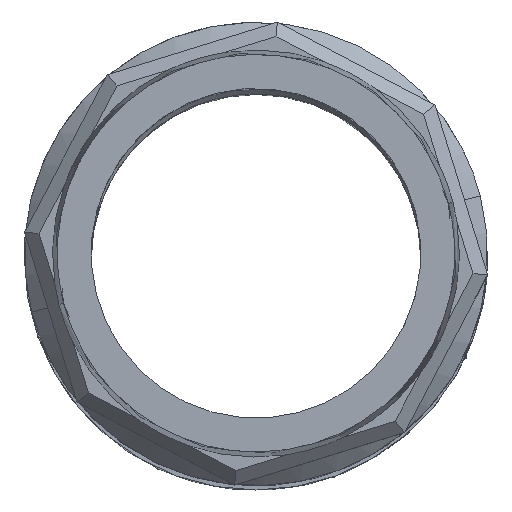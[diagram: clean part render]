
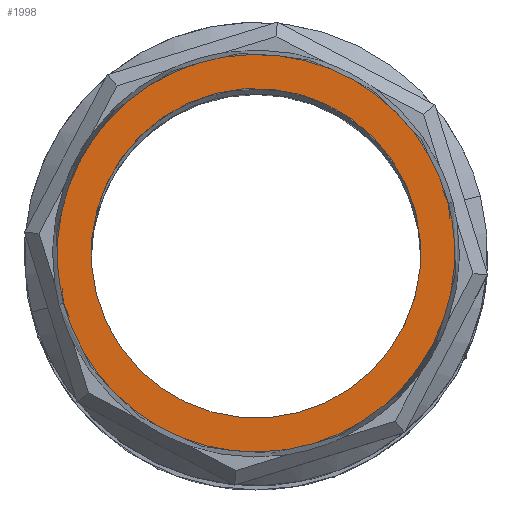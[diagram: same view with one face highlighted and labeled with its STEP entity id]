
A CAD part, top view. The second image highlights one B-rep face of the part: STEP entity #1998.
In plain terms, the highlighted planar face has unit normal (0, 0, 1).
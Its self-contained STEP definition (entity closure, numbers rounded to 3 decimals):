
#1 = EDGE_LOOP ( 'NONE', ( #2706, #2707 ) ) ;
#6 = EDGE_LOOP ( 'NONE', ( #2708, #2709 ) ) ;
#406 = CARTESIAN_POINT ( 'NONE',  ( 20.156, 13.04, 261.443 ) ) ;
#413 = CARTESIAN_POINT ( 'NONE',  ( 20.443, 12.124, 261.443 ) ) ;
#419 = CARTESIAN_POINT ( 'NONE',  ( 20.684, 11.195, 261.443 ) ) ;
#421 = CARTESIAN_POINT ( 'NONE',  ( 19.496, 14.839, 261.443 ) ) ;
#422 = CARTESIAN_POINT ( 'NONE',  ( 19.12, 15.724, 261.443 ) ) ;
#423 = CARTESIAN_POINT ( 'NONE',  ( 17.87, 18.312, 261.443 ) ) ;
#424 = CARTESIAN_POINT ( 'NONE',  ( 16.864, 19.959, 261.443 ) ) ;
#425 = CARTESIAN_POINT ( 'NONE',  ( 14.555, 23.018, 261.443 ) ) ;
#426 = CARTESIAN_POINT ( 'NONE',  ( 13.248, 24.437, 261.443 ) ) ;
#427 = CARTESIAN_POINT ( 'NONE',  ( 10.386, 26.987, 261.443 ) ) ;
#428 = CARTESIAN_POINT ( 'NONE',  ( 8.827, 28.123, 261.443 ) ) ;
#429 = CARTESIAN_POINT ( 'NONE',  ( 5.523, 30.067, 261.443 ) ) ;
#430 = CARTESIAN_POINT ( 'NONE',  ( 3.772, 30.877, 261.443 ) ) ;
#431 = CARTESIAN_POINT ( 'NONE',  ( 0.153, 32.138, 261.443 ) ) ;
#432 = CARTESIAN_POINT ( 'NONE',  ( -1.723, 32.591, 261.443 ) ) ;
#433 = CARTESIAN_POINT ( 'NONE',  ( -5.519, 33.122, 261.443 ) ) ;
#434 = CARTESIAN_POINT ( 'NONE',  ( -7.446, 33.2, 261.443 ) ) ;
#435 = CARTESIAN_POINT ( 'NONE',  ( -11.273, 32.98, 261.443 ) ) ;
#436 = CARTESIAN_POINT ( 'NONE',  ( -13.179, 32.681, 261.443 ) ) ;
#437 = CARTESIAN_POINT ( 'NONE',  ( -16.889, 31.719, 261.443 ) ) ;
#438 = CARTESIAN_POINT ( 'NONE',  ( -18.7, 31.054, 261.443 ) ) ;
#439 = CARTESIAN_POINT ( 'NONE',  ( -22.152, 29.386, 261.443 ) ) ;
#440 = CARTESIAN_POINT ( 'NONE',  ( -23.798, 28.381, 261.443 ) ) ;
#441 = CARTESIAN_POINT ( 'NONE',  ( -26.858, 26.072, 261.443 ) ) ;
#442 = CARTESIAN_POINT ( 'NONE',  ( -28.276, 24.764, 261.443 ) ) ;
#443 = CARTESIAN_POINT ( 'NONE',  ( -30.826, 21.903, 261.443 ) ) ;
#444 = CARTESIAN_POINT ( 'NONE',  ( -31.963, 20.344, 261.443 ) ) ;
#445 = CARTESIAN_POINT ( 'NONE',  ( -33.906, 17.04, 261.443 ) ) ;
#446 = CARTESIAN_POINT ( 'NONE',  ( -34.716, 15.289, 261.443 ) ) ;
#447 = CARTESIAN_POINT ( 'NONE',  ( -35.977, 11.669, 261.443 ) ) ;
#448 = CARTESIAN_POINT ( 'NONE',  ( -36.43, 9.794, 261.443 ) ) ;
#449 = CARTESIAN_POINT ( 'NONE',  ( -36.961, 5.998, 261.443 ) ) ;
#450 = CARTESIAN_POINT ( 'NONE',  ( -37.04, 4.07, 261.443 ) ) ;
#451 = CARTESIAN_POINT ( 'NONE',  ( -36.82, 0.243, 261.443 ) ) ;
#452 = CARTESIAN_POINT ( 'NONE',  ( -36.521, -1.662, 261.443 ) ) ;
#453 = CARTESIAN_POINT ( 'NONE',  ( -36.039, -3.518, 261.443 ) ) ;
#570 = B_SPLINE_CURVE_WITH_KNOTS ( 'NONE', 3,
 ( #1933, #1932, #1939, #1940, #1941, #1942, #1943, #1944, #1945, #1946, #1947, #1948, #1949, #1950, #1951, #1952, #1953, #1954, #1955, #1956, #1957, #1958, #1959, #1960, #1961, #1962, #1963, #1964, #1965, #1966, #1967, #1968, #1969, #1970 ),
 .UNSPECIFIED., .F., .F.,
 ( 4, 2, 2, 2, 2, 2, 2, 2, 2, 2, 2, 2, 2, 2, 2, 2, 4 ),
 ( 0.5, 0.531, 0.562, 0.594, 0.625, 0.656, 0.688, 0.719, 0.75, 0.781, 0.813, 0.844, 0.875, 0.906, 0.938, 0.969, 1. ),
 .UNSPECIFIED. ) ;
#651 = EDGE_CURVE ( 'NONE', #2586, #2551, #734, .T. ) ;
#734 = B_SPLINE_CURVE_WITH_KNOTS ( 'NONE', 3,
 ( #419, #413, #406, #421, #422, #423, #424, #425, #426, #427, #428, #429, #430, #431, #432, #433, #434, #435, #436, #437, #438, #439, #440, #441, #442, #443, #444, #445, #446, #447, #448, #449, #450, #451, #452, #453 ),
 .UNSPECIFIED., .F., .F.,
 ( 4, 2, 2, 2, 2, 2, 2, 2, 2, 2, 2, 2, 2, 2, 2, 2, 2, 4 ),
 ( 0., 0.016, 0.031, 0.063, 0.094, 0.125, 0.156, 0.188, 0.219, 0.25, 0.281, 0.313, 0.344, 0.375, 0.406, 0.438, 0.469, 0.5 ),
 .UNSPECIFIED. ) ;
#844 = EDGE_CURVE ( 'NONE', #2528, #2580, #1585, .T. ) ;
#865 = CARTESIAN_POINT ( 'NONE',  ( -7.678, 3.839, 261.443 ) ) ;
#872 = FACE_OUTER_BOUND ( 'NONE', #6, .T. ) ;
#876 = FACE_BOUND ( 'NONE', #1, .T. ) ;
#877 = PLANE ( 'NONE',  #2373 ) ;
#879 = DIRECTION ( 'NONE',  ( 0., 0., 1. ) ) ;
#880 = DIRECTION ( 'NONE',  ( 0.968, 0.251, 0. ) ) ;
#1007 = CARTESIAN_POINT ( 'NONE',  ( -31.2, -2.262, 261.443 ) ) ;
#1027 = CARTESIAN_POINT ( 'NONE',  ( -36.039, -3.518, 261.443 ) ) ;
#1054 = CARTESIAN_POINT ( 'NONE',  ( 15.844, 9.94, 261.443 ) ) ;
#1060 = CARTESIAN_POINT ( 'NONE',  ( 20.684, 11.195, 261.443 ) ) ;
#1561 = CARTESIAN_POINT ( 'NONE',  ( -7.678, 3.839, 261.443 ) ) ;
#1563 = DIRECTION ( 'NONE',  ( 0., 0., 1. ) ) ;
#1564 = DIRECTION ( 'NONE',  ( 0.968, 0.251, 0. ) ) ;
#1585 = CIRCLE ( 'NONE', #1598, 24.3 ) ;
#1598 = AXIS2_PLACEMENT_3D ( 'NONE', #1561, #1563, #1564 ) ;
#1750 = EDGE_CURVE ( 'NONE', #2551, #2586, #570, .T. ) ;
#1765 = EDGE_CURVE ( 'NONE', #2580, #2528, #2361, .T. ) ;
#1932 = CARTESIAN_POINT ( 'NONE',  ( -35.558, -5.373, 261.443 ) ) ;
#1933 = CARTESIAN_POINT ( 'NONE',  ( -36.039, -3.518, 261.443 ) ) ;
#1939 = CARTESIAN_POINT ( 'NONE',  ( -34.893, -7.184, 261.443 ) ) ;
#1940 = CARTESIAN_POINT ( 'NONE',  ( -33.225, -10.635, 261.443 ) ) ;
#1941 = CARTESIAN_POINT ( 'NONE',  ( -32.22, -12.281, 261.443 ) ) ;
#1942 = CARTESIAN_POINT ( 'NONE',  ( -29.911, -15.341, 261.443 ) ) ;
#1943 = CARTESIAN_POINT ( 'NONE',  ( -28.603, -16.759, 261.443 ) ) ;
#1944 = CARTESIAN_POINT ( 'NONE',  ( -25.742, -19.31, 261.443 ) ) ;
#1945 = CARTESIAN_POINT ( 'NONE',  ( -24.183, -20.446, 261.443 ) ) ;
#1946 = CARTESIAN_POINT ( 'NONE',  ( -20.879, -22.389, 261.443 ) ) ;
#1947 = CARTESIAN_POINT ( 'NONE',  ( -19.128, -23.199, 261.443 ) ) ;
#1948 = CARTESIAN_POINT ( 'NONE',  ( -15.508, -24.461, 261.443 ) ) ;
#1949 = CARTESIAN_POINT ( 'NONE',  ( -13.633, -24.914, 261.443 ) ) ;
#1950 = CARTESIAN_POINT ( 'NONE',  ( -9.837, -25.444, 261.443 ) ) ;
#1951 = CARTESIAN_POINT ( 'NONE',  ( -7.909, -25.523, 261.443 ) ) ;
#1952 = CARTESIAN_POINT ( 'NONE',  ( -4.083, -25.303, 261.443 ) ) ;
#1953 = CARTESIAN_POINT ( 'NONE',  ( -2.177, -25.004, 261.443 ) ) ;
#1954 = CARTESIAN_POINT ( 'NONE',  ( 1.534, -24.042, 261.443 ) ) ;
#1955 = CARTESIAN_POINT ( 'NONE',  ( 3.344, -23.376, 261.443 ) ) ;
#1956 = CARTESIAN_POINT ( 'NONE',  ( 6.796, -21.709, 261.443 ) ) ;
#1957 = CARTESIAN_POINT ( 'NONE',  ( 8.442, -20.703, 261.443 ) ) ;
#1958 = CARTESIAN_POINT ( 'NONE',  ( 11.502, -18.394, 261.443 ) ) ;
#1959 = CARTESIAN_POINT ( 'NONE',  ( 12.92, -17.087, 261.443 ) ) ;
#1960 = CARTESIAN_POINT ( 'NONE',  ( 15.471, -14.225, 261.443 ) ) ;
#1961 = CARTESIAN_POINT ( 'NONE',  ( 16.607, -12.666, 261.443 ) ) ;
#1962 = CARTESIAN_POINT ( 'NONE',  ( 18.55, -9.362, 261.443 ) ) ;
#1963 = CARTESIAN_POINT ( 'NONE',  ( 19.36, -7.611, 261.443 ) ) ;
#1964 = CARTESIAN_POINT ( 'NONE',  ( 20.621, -3.992, 261.443 ) ) ;
#1965 = CARTESIAN_POINT ( 'NONE',  ( 21.074, -2.116, 261.443 ) ) ;
#1966 = CARTESIAN_POINT ( 'NONE',  ( 21.605, 1.68, 261.443 ) ) ;
#1967 = CARTESIAN_POINT ( 'NONE',  ( 21.684, 3.607, 261.443 ) ) ;
#1968 = CARTESIAN_POINT ( 'NONE',  ( 21.464, 7.434, 261.443 ) ) ;
#1969 = CARTESIAN_POINT ( 'NONE',  ( 21.165, 9.34, 261.443 ) ) ;
#1970 = CARTESIAN_POINT ( 'NONE',  ( 20.684, 11.195, 261.443 ) ) ;
#1993 = CARTESIAN_POINT ( 'NONE',  ( -7.678, 3.839, 261.443 ) ) ;
#1994 = DIRECTION ( 'NONE',  ( 0., 0., 1. ) ) ;
#1998 = ADVANCED_FACE ( 'NONE', ( #876, #872 ), #877, .T. ) ;
#2296 = DIRECTION ( 'NONE',  ( 0.968, 0.251, 0. ) ) ;
#2361 = CIRCLE ( 'NONE', #2363, 24.3 ) ;
#2363 = AXIS2_PLACEMENT_3D ( 'NONE', #1993, #1994, #2296 ) ;
#2373 = AXIS2_PLACEMENT_3D ( 'NONE', #865, #879, #880 ) ;
#2528 = VERTEX_POINT ( 'NONE', #1007 ) ;
#2551 = VERTEX_POINT ( 'NONE', #1027 ) ;
#2580 = VERTEX_POINT ( 'NONE', #1054 ) ;
#2586 = VERTEX_POINT ( 'NONE', #1060 ) ;
#2706 = ORIENTED_EDGE ( 'NONE', *, *, #1765, .F. ) ;
#2707 = ORIENTED_EDGE ( 'NONE', *, *, #844, .F. ) ;
#2708 = ORIENTED_EDGE ( 'NONE', *, *, #1750, .T. ) ;
#2709 = ORIENTED_EDGE ( 'NONE', *, *, #651, .T. ) ;
